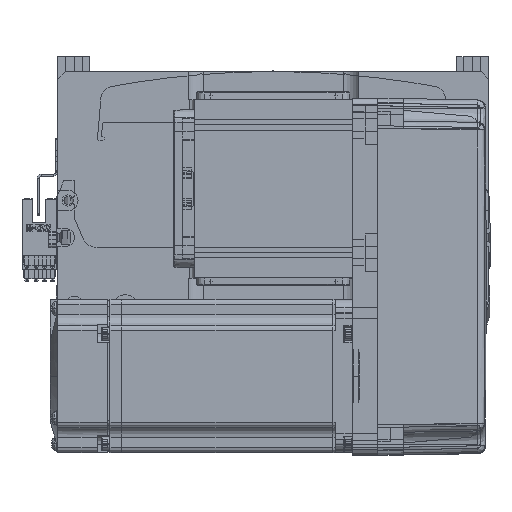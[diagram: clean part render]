
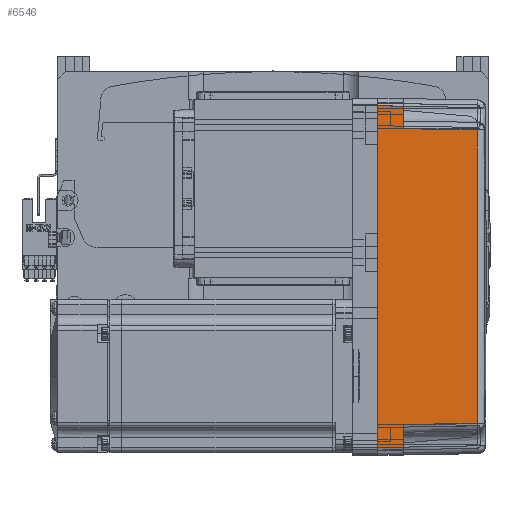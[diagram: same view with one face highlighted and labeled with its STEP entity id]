
A CAD part, top view. The second image highlights one B-rep face of the part: STEP entity #6546.
In plain terms, the highlighted planar face has unit normal (0.018, 0, 1) as drawn and (0, 1, 0.017) by its records, which use the part's own axes.
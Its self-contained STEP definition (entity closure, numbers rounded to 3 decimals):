
#30 = CARTESIAN_POINT ( 'NONE',  ( 66.826, 35.825, 10. ) ) ;
#96 = LINE ( 'NONE', #422, #59827 ) ;
#246 = CARTESIAN_POINT ( 'NONE',  ( -57.495, 35.32, 38.985 ) ) ;
#301 = DIRECTION ( 'NONE',  ( -0.017, -0.017, 1. ) ) ;
#422 = CARTESIAN_POINT ( 'NONE',  ( -67., 36., 0. ) ) ;
#716 = VERTEX_POINT ( 'NONE', #45018 ) ;
#1451 = EDGE_CURVE ( 'NONE', #65607, #30020, #5754, .T. ) ;
#3055 = ORIENTED_EDGE ( 'NONE', *, *, #1451, .T. ) ;
#5754 = LINE ( 'NONE', #54788, #70720 ) ;
#5838 = DIRECTION ( 'NONE',  ( 1., 0., 0. ) ) ;
#6546 = ADVANCED_FACE ( 'NONE', ( #70425 ), #49295, .T. ) ;
#8971 = VERTEX_POINT ( 'NONE', #46661 ) ;
#10317 = CARTESIAN_POINT ( 'NONE',  ( 70., 36., 0. ) ) ;
#10961 = LINE ( 'NONE', #37167, #32682 ) ;
#12805 = CARTESIAN_POINT ( 'NONE',  ( 19.165, 35.316, 39.181 ) ) ;
#14703 = VERTEX_POINT ( 'NONE', #53987 ) ;
#14745 = CARTESIAN_POINT ( 'NONE',  ( 70., 35.825, 10. ) ) ;
#15862 = DIRECTION ( 'NONE',  ( 0.017, -0.017, 1. ) ) ;
#16183 = DIRECTION ( 'NONE',  ( 0., -0.017, 1. ) ) ;
#16473 = CARTESIAN_POINT ( 'NONE',  ( -19.165, 35.316, 39.181 ) ) ;
#17178 = CARTESIAN_POINT ( 'NONE',  ( 57.495, 35.32, 38.985 ) ) ;
#18687 = EDGE_CURVE ( 'NONE', #14703, #37176, #48743, .T. ) ;
#19180 = LINE ( 'NONE', #29614, #33004 ) ;
#19338 = EDGE_CURVE ( 'NONE', #20077, #716, #36546, .T. ) ;
#20077 = VERTEX_POINT ( 'NONE', #63211 ) ;
#22210 = DIRECTION ( 'NONE',  ( 0.017, -0.017, 1. ) ) ;
#24285 = DIRECTION ( 'NONE',  ( 1., 0., 0. ) ) ;
#28388 = EDGE_CURVE ( 'NONE', #37176, #30020, #67299, .T. ) ;
#28777 = VECTOR ( 'NONE', #53696, 1000. ) ;
#29614 = CARTESIAN_POINT ( 'NONE',  ( 57.495, 35.32, 38.985 ) ) ;
#30020 = VERTEX_POINT ( 'NONE', #30 ) ;
#32682 = VECTOR ( 'NONE', #15862, 1000. ) ;
#33004 = VECTOR ( 'NONE', #34943, 1000. ) ;
#33569 = ORIENTED_EDGE ( 'NONE', *, *, #19338, .T. ) ;
#34943 = DIRECTION ( 'NONE',  ( 0.017, 0.017, -1. ) ) ;
#36546 = LINE ( 'NONE', #14745, #28777 ) ;
#37167 = CARTESIAN_POINT ( 'NONE',  ( -58., 35.825, 10. ) ) ;
#37176 = VERTEX_POINT ( 'NONE', #56295 ) ;
#37584 = AXIS2_PLACEMENT_3D ( 'NONE', #10317, #37716, #16183 ) ;
#37716 = DIRECTION ( 'NONE',  ( 0., 1., 0.017 ) ) ;
#40564 = ORIENTED_EDGE ( 'NONE', *, *, #65771, .T. ) ;
#45018 = CARTESIAN_POINT ( 'NONE',  ( -58., 35.825, 10. ) ) ;
#46661 = CARTESIAN_POINT ( 'NONE',  ( -57.495, 35.32, 38.985 ) ) ;
#48007 = ORIENTED_EDGE ( 'NONE', *, *, #52795, .T. ) ;
#48743 = LINE ( 'NONE', #62555, #63403 ) ;
#49295 = PLANE ( 'NONE',  #37584 ) ;
#52795 = EDGE_CURVE ( 'NONE', #67364, #65607, #19180, .T. ) ;
#53696 = DIRECTION ( 'NONE',  ( 1., 0., 0. ) ) ;
#53987 = CARTESIAN_POINT ( 'NONE',  ( -67., 36., 0. ) ) ;
#54788 = CARTESIAN_POINT ( 'NONE',  ( 70., 35.825, 10. ) ) ;
#54919 = CARTESIAN_POINT ( 'NONE',  ( 58., 35.825, 10. ) ) ;
#55339 = ORIENTED_EDGE ( 'NONE', *, *, #63786, .T. ) ;
#56295 = CARTESIAN_POINT ( 'NONE',  ( 67., 36., 0. ) ) ;
#56914 = VECTOR ( 'NONE', #301, 1000. ) ;
#59471 = ORIENTED_EDGE ( 'NONE', *, *, #18687, .F. ) ;
#59623 = EDGE_LOOP ( 'NONE', ( #55339, #33569, #61228, #40564, #48007, #3055, #66048, #59471 ) ) ;
#59827 = VECTOR ( 'NONE', #22210, 1000. ) ;
#60340 = CARTESIAN_POINT ( 'NONE',  ( 67.001, 36.001, -0.052 ) ) ;
#61228 = ORIENTED_EDGE ( 'NONE', *, *, #61873, .T. ) ;
#61417 = B_SPLINE_CURVE_WITH_KNOTS ( 'NONE', 3,
 ( #246, #16473, #12805, #17178 ),
 .UNSPECIFIED., .F., .F.,
 ( 4, 4 ),
 ( 0., 1. ),
 .UNSPECIFIED. ) ;
#61873 = EDGE_CURVE ( 'NONE', #716, #8971, #10961, .T. ) ;
#62555 = CARTESIAN_POINT ( 'NONE',  ( 0., 36., 0. ) ) ;
#63211 = CARTESIAN_POINT ( 'NONE',  ( -66.826, 35.825, 10. ) ) ;
#63403 = VECTOR ( 'NONE', #24285, 1000. ) ;
#63786 = EDGE_CURVE ( 'NONE', #14703, #20077, #96, .T. ) ;
#65607 = VERTEX_POINT ( 'NONE', #54919 ) ;
#65771 = EDGE_CURVE ( 'NONE', #8971, #67364, #61417, .T. ) ;
#66048 = ORIENTED_EDGE ( 'NONE', *, *, #28388, .F. ) ;
#67299 = LINE ( 'NONE', #60340, #56914 ) ;
#67364 = VERTEX_POINT ( 'NONE', #71275 ) ;
#70425 = FACE_OUTER_BOUND ( 'NONE', #59623, .T. ) ;
#70720 = VECTOR ( 'NONE', #5838, 1000. ) ;
#71275 = CARTESIAN_POINT ( 'NONE',  ( 57.495, 35.32, 38.985 ) ) ;
